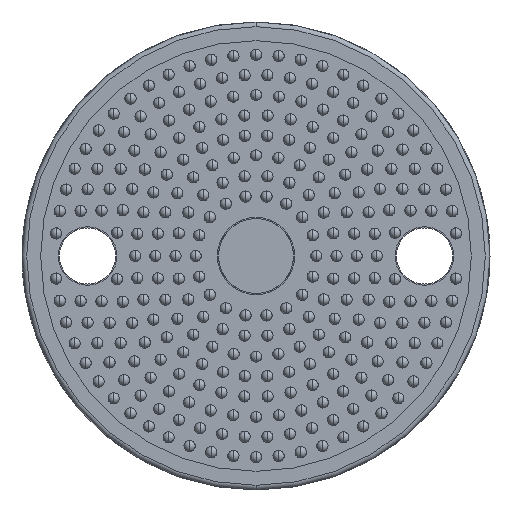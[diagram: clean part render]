
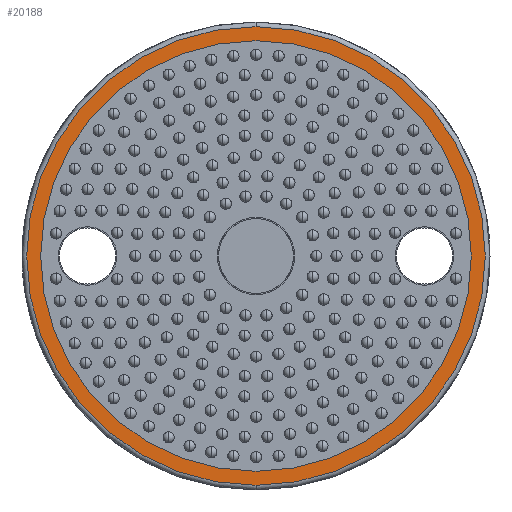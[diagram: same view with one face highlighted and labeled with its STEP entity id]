
A CAD part, front view. The second image highlights one B-rep face of the part: STEP entity #20188.
In plain terms, the highlighted planar face has unit normal (0, -1, 0).
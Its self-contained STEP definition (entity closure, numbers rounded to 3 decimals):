
#699 = VERTEX_POINT ( 'NONE', #3498 ) ;
#1815 = CARTESIAN_POINT ( 'NONE',  ( 0., 0., 49. ) ) ;
#2273 = DIRECTION ( 'NONE',  ( 0., -1., 0. ) ) ;
#3498 = CARTESIAN_POINT ( 'NONE',  ( 0., 0., -49. ) ) ;
#6362 = EDGE_LOOP ( 'NONE', ( #29872, #16133 ) ) ;
#6731 = CARTESIAN_POINT ( 'NONE',  ( 0., 0., 0. ) ) ;
#10312 = ORIENTED_EDGE ( 'NONE', *, *, #16143, .F. ) ;
#10365 = ORIENTED_EDGE ( 'NONE', *, *, #21643, .F. ) ;
#10501 = DIRECTION ( 'NONE',  ( 0., 0., -1. ) ) ;
#10601 = DIRECTION ( 'NONE',  ( 0., 0., -1. ) ) ;
#11411 = VERTEX_POINT ( 'NONE', #30161 ) ;
#12545 = CARTESIAN_POINT ( 'NONE',  ( 0., 0., 46. ) ) ;
#13823 = DIRECTION ( 'NONE',  ( 0., -1., 0. ) ) ;
#16128 = CIRCLE ( 'NONE', #26040, 49. ) ;
#16133 = ORIENTED_EDGE ( 'NONE', *, *, #18481, .T. ) ;
#16143 = EDGE_CURVE ( 'NONE', #19988, #11411, #32338, .T. ) ;
#17267 = DIRECTION ( 'NONE',  ( 0., -1., 0. ) ) ;
#18263 = CARTESIAN_POINT ( 'NONE',  ( 0., 0., 0. ) ) ;
#18481 = EDGE_CURVE ( 'NONE', #35405, #699, #36190, .T. ) ;
#19085 = FACE_OUTER_BOUND ( 'NONE', #6362, .T. ) ;
#19984 = AXIS2_PLACEMENT_3D ( 'NONE', #32991, #17267, #36211 ) ;
#19988 = VERTEX_POINT ( 'NONE', #12545 ) ;
#20188 = ADVANCED_FACE ( 'NONE', ( #19085, #31577 ), #23403, .T. ) ;
#20439 = AXIS2_PLACEMENT_3D ( 'NONE', #18263, #21021, #27421 ) ;
#21021 = DIRECTION ( 'NONE',  ( 0., -1., 0. ) ) ;
#21643 = EDGE_CURVE ( 'NONE', #11411, #19988, #22473, .T. ) ;
#22473 = CIRCLE ( 'NONE', #19984, 46. ) ;
#23403 = PLANE ( 'NONE',  #26328 ) ;
#26040 = AXIS2_PLACEMENT_3D ( 'NONE', #6731, #32820, #10501 ) ;
#26328 = AXIS2_PLACEMENT_3D ( 'NONE', #36120, #13823, #10601 ) ;
#27421 = DIRECTION ( 'NONE',  ( 0., 0., -1. ) ) ;
#29872 = ORIENTED_EDGE ( 'NONE', *, *, #40186, .T. ) ;
#30161 = CARTESIAN_POINT ( 'NONE',  ( 0., 0., -46. ) ) ;
#31577 = FACE_BOUND ( 'NONE', #31718, .T. ) ;
#31718 = EDGE_LOOP ( 'NONE', ( #10312, #10365 ) ) ;
#32338 = CIRCLE ( 'NONE', #39356, 46. ) ;
#32820 = DIRECTION ( 'NONE',  ( 0., -1., 0. ) ) ;
#32991 = CARTESIAN_POINT ( 'NONE',  ( 0., 0., 0. ) ) ;
#35405 = VERTEX_POINT ( 'NONE', #1815 ) ;
#36120 = CARTESIAN_POINT ( 'NONE',  ( -44.5, 0., 0. ) ) ;
#36190 = CIRCLE ( 'NONE', #20439, 49. ) ;
#36211 = DIRECTION ( 'NONE',  ( 0., 0., -1. ) ) ;
#37581 = DIRECTION ( 'NONE',  ( 0., 0., -1. ) ) ;
#39356 = AXIS2_PLACEMENT_3D ( 'NONE', #40559, #2273, #37581 ) ;
#40186 = EDGE_CURVE ( 'NONE', #699, #35405, #16128, .T. ) ;
#40559 = CARTESIAN_POINT ( 'NONE',  ( 0., 0., 0. ) ) ;
